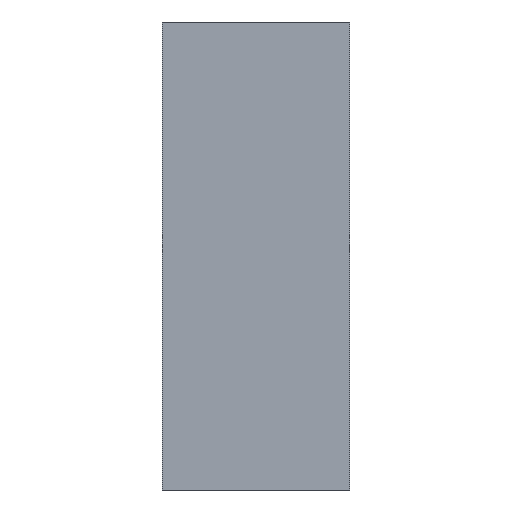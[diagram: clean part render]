
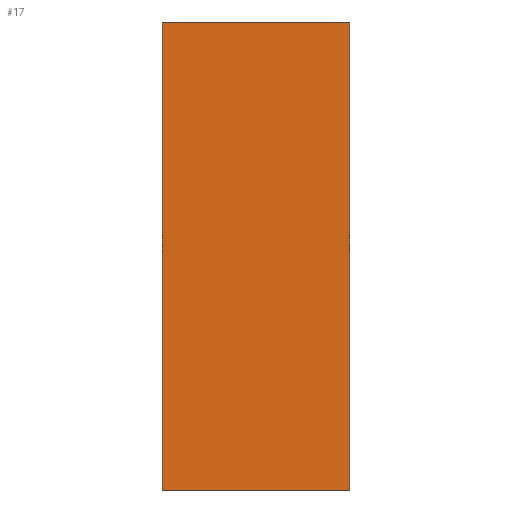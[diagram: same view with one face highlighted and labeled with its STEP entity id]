
A CAD part, left-side view. The second image highlights one B-rep face of the part: STEP entity #17.
In plain terms, the highlighted planar face has unit normal (-1, 0, 0).
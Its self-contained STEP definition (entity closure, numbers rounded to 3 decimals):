
#17 = ADVANCED_FACE('',(#18),#32,.F.);
#18 = FACE_BOUND('',#19,.T.);
#19 = EDGE_LOOP('',(#20,#55,#83,#111));
#20 = ORIENTED_EDGE('',*,*,#21,.F.);
#21 = EDGE_CURVE('',#22,#24,#26,.T.);
#22 = VERTEX_POINT('',#23);
#23 = CARTESIAN_POINT('',(-20.,38.,59.5));
#24 = VERTEX_POINT('',#25);
#25 = CARTESIAN_POINT('',(-20.,32.,59.5));
#26 = SURFACE_CURVE('',#27,(#31,#43),.PCURVE_S1.);
#27 = LINE('',#28,#29);
#28 = CARTESIAN_POINT('',(-20.,32.,59.5));
#29 = VECTOR('',#30,1.);
#30 = DIRECTION('',(0.,-1.,0.));
#31 = PCURVE('',#32,#37);
#32 = PLANE('',#33);
#33 = AXIS2_PLACEMENT_3D('',#34,#35,#36);
#34 = CARTESIAN_POINT('',(-20.,32.,44.5));
#35 = DIRECTION('',(1.,0.,0.));
#36 = DIRECTION('',(0.,0.,1.));
#37 = DEFINITIONAL_REPRESENTATION('',(#38),#42);
#38 = LINE('',#39,#40);
#39 = CARTESIAN_POINT('',(15.,0.));
#40 = VECTOR('',#41,1.);
#41 = DIRECTION('',(0.,1.));
#42 = ( GEOMETRIC_REPRESENTATION_CONTEXT(2) 
PARAMETRIC_REPRESENTATION_CONTEXT() REPRESENTATION_CONTEXT('2D SPACE',''
  ) );
#43 = PCURVE('',#44,#49);
#44 = PLANE('',#45);
#45 = AXIS2_PLACEMENT_3D('',#46,#47,#48);
#46 = CARTESIAN_POINT('',(-20.,32.,59.5));
#47 = DIRECTION('',(0.,0.,1.));
#48 = DIRECTION('',(1.,0.,0.));
#49 = DEFINITIONAL_REPRESENTATION('',(#50),#54);
#50 = LINE('',#51,#52);
#51 = CARTESIAN_POINT('',(0.,0.));
#52 = VECTOR('',#53,1.);
#53 = DIRECTION('',(0.,-1.));
#54 = ( GEOMETRIC_REPRESENTATION_CONTEXT(2) 
PARAMETRIC_REPRESENTATION_CONTEXT() REPRESENTATION_CONTEXT('2D SPACE',''
  ) );
#55 = ORIENTED_EDGE('',*,*,#56,.F.);
#56 = EDGE_CURVE('',#57,#22,#59,.T.);
#57 = VERTEX_POINT('',#58);
#58 = CARTESIAN_POINT('',(-20.,38.,44.5));
#59 = SURFACE_CURVE('',#60,(#64,#71),.PCURVE_S1.);
#60 = LINE('',#61,#62);
#61 = CARTESIAN_POINT('',(-20.,38.,44.5));
#62 = VECTOR('',#63,1.);
#63 = DIRECTION('',(0.,0.,1.));
#64 = PCURVE('',#32,#65);
#65 = DEFINITIONAL_REPRESENTATION('',(#66),#70);
#66 = LINE('',#67,#68);
#67 = CARTESIAN_POINT('',(0.,-6.));
#68 = VECTOR('',#69,1.);
#69 = DIRECTION('',(1.,0.));
#70 = ( GEOMETRIC_REPRESENTATION_CONTEXT(2) 
PARAMETRIC_REPRESENTATION_CONTEXT() REPRESENTATION_CONTEXT('2D SPACE',''
  ) );
#71 = PCURVE('',#72,#77);
#72 = PLANE('',#73);
#73 = AXIS2_PLACEMENT_3D('',#74,#75,#76);
#74 = CARTESIAN_POINT('',(-20.,38.,44.5));
#75 = DIRECTION('',(0.,1.,0.));
#76 = DIRECTION('',(0.,0.,1.));
#77 = DEFINITIONAL_REPRESENTATION('',(#78),#82);
#78 = LINE('',#79,#80);
#79 = CARTESIAN_POINT('',(0.,0.));
#80 = VECTOR('',#81,1.);
#81 = DIRECTION('',(1.,0.));
#82 = ( GEOMETRIC_REPRESENTATION_CONTEXT(2) 
PARAMETRIC_REPRESENTATION_CONTEXT() REPRESENTATION_CONTEXT('2D SPACE',''
  ) );
#83 = ORIENTED_EDGE('',*,*,#84,.F.);
#84 = EDGE_CURVE('',#85,#57,#87,.T.);
#85 = VERTEX_POINT('',#86);
#86 = CARTESIAN_POINT('',(-20.,32.,44.5));
#87 = SURFACE_CURVE('',#88,(#92,#99),.PCURVE_S1.);
#88 = LINE('',#89,#90);
#89 = CARTESIAN_POINT('',(-20.,32.,44.5));
#90 = VECTOR('',#91,1.);
#91 = DIRECTION('',(0.,1.,0.));
#92 = PCURVE('',#32,#93);
#93 = DEFINITIONAL_REPRESENTATION('',(#94),#98);
#94 = LINE('',#95,#96);
#95 = CARTESIAN_POINT('',(0.,0.));
#96 = VECTOR('',#97,1.);
#97 = DIRECTION('',(0.,-1.));
#98 = ( GEOMETRIC_REPRESENTATION_CONTEXT(2) 
PARAMETRIC_REPRESENTATION_CONTEXT() REPRESENTATION_CONTEXT('2D SPACE',''
  ) );
#99 = PCURVE('',#100,#105);
#100 = PLANE('',#101);
#101 = AXIS2_PLACEMENT_3D('',#102,#103,#104);
#102 = CARTESIAN_POINT('',(-20.,32.,44.5));
#103 = DIRECTION('',(0.,0.,1.));
#104 = DIRECTION('',(1.,0.,0.));
#105 = DEFINITIONAL_REPRESENTATION('',(#106),#110);
#106 = LINE('',#107,#108);
#107 = CARTESIAN_POINT('',(0.,0.));
#108 = VECTOR('',#109,1.);
#109 = DIRECTION('',(0.,1.));
#110 = ( GEOMETRIC_REPRESENTATION_CONTEXT(2) 
PARAMETRIC_REPRESENTATION_CONTEXT() REPRESENTATION_CONTEXT('2D SPACE',''
  ) );
#111 = ORIENTED_EDGE('',*,*,#112,.T.);
#112 = EDGE_CURVE('',#85,#24,#113,.T.);
#113 = SURFACE_CURVE('',#114,(#118,#125),.PCURVE_S1.);
#114 = LINE('',#115,#116);
#115 = CARTESIAN_POINT('',(-20.,32.,44.5));
#116 = VECTOR('',#117,1.);
#117 = DIRECTION('',(0.,0.,1.));
#118 = PCURVE('',#32,#119);
#119 = DEFINITIONAL_REPRESENTATION('',(#120),#124);
#120 = LINE('',#121,#122);
#121 = CARTESIAN_POINT('',(0.,0.));
#122 = VECTOR('',#123,1.);
#123 = DIRECTION('',(1.,0.));
#124 = ( GEOMETRIC_REPRESENTATION_CONTEXT(2) 
PARAMETRIC_REPRESENTATION_CONTEXT() REPRESENTATION_CONTEXT('2D SPACE',''
  ) );
#125 = PCURVE('',#126,#131);
#126 = PLANE('',#127);
#127 = AXIS2_PLACEMENT_3D('',#128,#129,#130);
#128 = CARTESIAN_POINT('',(-20.,32.,44.5));
#129 = DIRECTION('',(0.,1.,0.));
#130 = DIRECTION('',(0.,0.,1.));
#131 = DEFINITIONAL_REPRESENTATION('',(#132),#136);
#132 = LINE('',#133,#134);
#133 = CARTESIAN_POINT('',(0.,0.));
#134 = VECTOR('',#135,1.);
#135 = DIRECTION('',(1.,0.));
#136 = ( GEOMETRIC_REPRESENTATION_CONTEXT(2) 
PARAMETRIC_REPRESENTATION_CONTEXT() REPRESENTATION_CONTEXT('2D SPACE',''
  ) );
